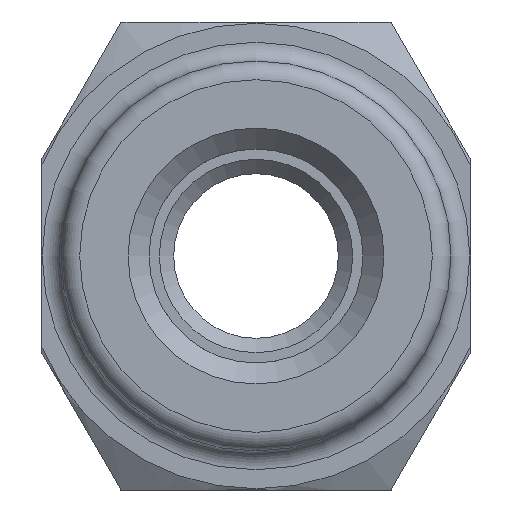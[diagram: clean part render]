
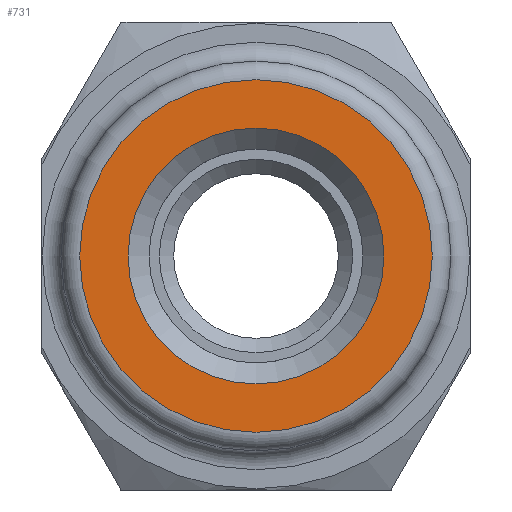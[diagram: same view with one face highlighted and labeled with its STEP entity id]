
A CAD part, front view. The second image highlights one B-rep face of the part: STEP entity #731.
In plain terms, the highlighted planar face has unit normal (0, -1, 0).
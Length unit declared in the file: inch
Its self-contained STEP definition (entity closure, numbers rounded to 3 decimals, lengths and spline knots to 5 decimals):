
#44=PLANE('',#815);
#59=FACE_BOUND('',#144,.T.);
#100=FACE_OUTER_BOUND('',#143,.T.);
#143=EDGE_LOOP('',(#566,#567));
#144=EDGE_LOOP('',(#568,#569));
#246=CIRCLE('',#783,0.205);
#247=CIRCLE('',#784,0.205);
#260=CIRCLE('',#807,0.2825);
#264=CIRCLE('',#811,0.2825);
#301=VERTEX_POINT('',#1161);
#302=VERTEX_POINT('',#1162);
#320=VERTEX_POINT('',#1304);
#321=VERTEX_POINT('',#1305);
#381=EDGE_CURVE('',#301,#302,#246,.T.);
#382=EDGE_CURVE('',#302,#301,#247,.T.);
#410=EDGE_CURVE('',#320,#321,#260,.T.);
#414=EDGE_CURVE('',#321,#320,#264,.T.);
#566=ORIENTED_EDGE('',*,*,#410,.F.);
#567=ORIENTED_EDGE('',*,*,#414,.F.);
#568=ORIENTED_EDGE('',*,*,#381,.T.);
#569=ORIENTED_EDGE('',*,*,#382,.T.);
#731=ADVANCED_FACE('',(#100,#59),#44,.T.);
#783=AXIS2_PLACEMENT_3D('',#1163,#899,#900);
#784=AXIS2_PLACEMENT_3D('',#1164,#901,#902);
#807=AXIS2_PLACEMENT_3D('',#1306,#957,#958);
#811=AXIS2_PLACEMENT_3D('',#1312,#965,#966);
#815=AXIS2_PLACEMENT_3D('',#1319,#974,#975);
#899=DIRECTION('center_axis',(0.,1.,0.));
#900=DIRECTION('ref_axis',(0.,0.,-1.));
#901=DIRECTION('center_axis',(0.,1.,0.));
#902=DIRECTION('ref_axis',(0.,0.,-1.));
#957=DIRECTION('center_axis',(0.,1.,0.));
#958=DIRECTION('ref_axis',(0.,0.,1.));
#965=DIRECTION('center_axis',(0.,1.,0.));
#966=DIRECTION('ref_axis',(0.,0.,1.));
#974=DIRECTION('center_axis',(0.,-1.,0.));
#975=DIRECTION('ref_axis',(0.,0.,-1.));
#1161=CARTESIAN_POINT('',(0.,0.,-0.205));
#1162=CARTESIAN_POINT('',(0.,0.,0.205));
#1163=CARTESIAN_POINT('Origin',(0.,0.,0.));
#1164=CARTESIAN_POINT('Origin',(0.,0.,0.));
#1304=CARTESIAN_POINT('',(0.,0.,-0.2825));
#1305=CARTESIAN_POINT('',(0.,0.,0.2825));
#1306=CARTESIAN_POINT('Origin',(0.,0.,0.));
#1312=CARTESIAN_POINT('Origin',(0.,0.,0.));
#1319=CARTESIAN_POINT('Origin',(0.,0.,0.));
